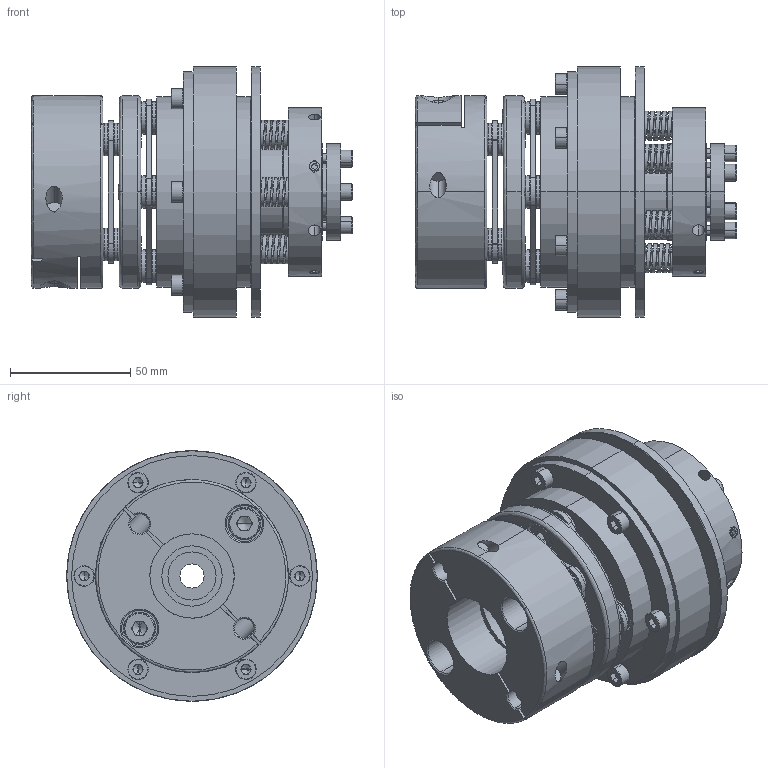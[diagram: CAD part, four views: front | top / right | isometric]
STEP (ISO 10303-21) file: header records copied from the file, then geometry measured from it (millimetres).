
FILE_DESCRIPTION (( 'STEP AP203' ), '1' );
FILE_NAME ('STL55-L-TS7.5-C35-P20.STEP', '2019-06-04T07:38:23', ( '' ), ( '' ), 'SwSTEP 2.0', 'SolidWorks 2015', '' );
FILE_SCHEMA (( 'CONFIG_CONTROL_DESIGN' ));
Length unit declared in the file: millimetre
Products named in the file (1): STL55-L-TS7.5-C35-P20
Bounding box: 133.35 x 104 x 104 mm (x, y, z)
Volume: 487439.9 mm3; surface area: 138549.3 mm2
Topology: 24 solids, 44 shells, 1375 faces, 3333 edges, 2057 vertices
Faces by surface type: plane 464, cylinder 451, cone 253, bspline 207
Entity records: 59582 total; most frequent: CARTESIAN_POINT 27844, DIRECTION 6775, ORIENTED_EDGE 6546, EDGE_CURVE 3273, AXIS2_PLACEMENT_3D 2675, VERTEX_POINT 2057, EDGE_LOOP 1562, CIRCLE 1506
